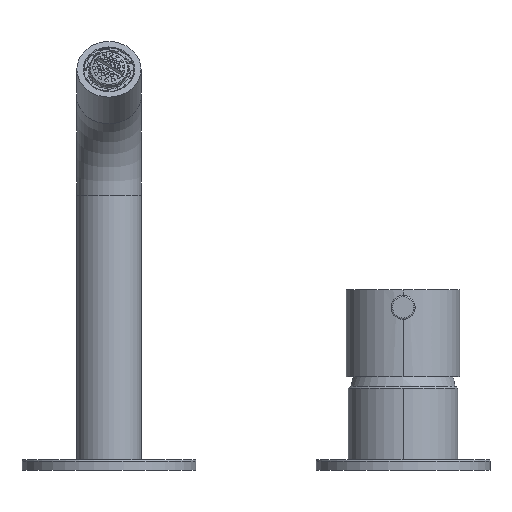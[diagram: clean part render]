
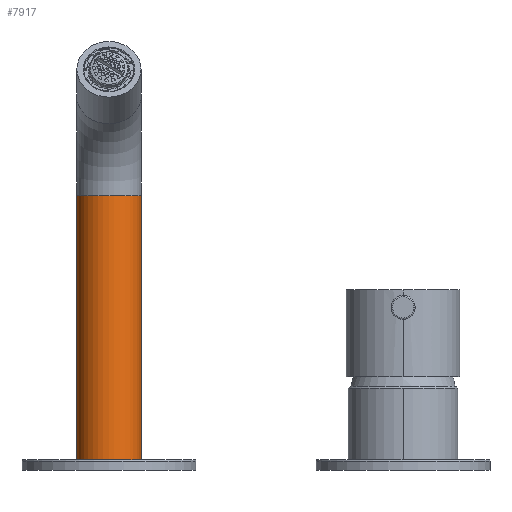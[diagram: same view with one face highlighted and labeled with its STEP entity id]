
A CAD part, front view. The second image highlights one B-rep face of the part: STEP entity #7917.
In plain terms, the highlighted cylindrical face has radius 12 mm (diameter 24 mm), a partial arc.
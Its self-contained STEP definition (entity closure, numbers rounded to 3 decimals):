
#3091=CARTESIAN_POINT('',(0.,0.,113.961));
#3092=DIRECTION('',(0.,0.,-1.));
#3093=DIRECTION('',(1.,0.,0.));
#3094=AXIS2_PLACEMENT_3D('',#3091,#3092,#3093);
#3116=DIRECTION('',(0.,0.,-1.));
#3117=VECTOR('',#3116,98.761);
#3118=CARTESIAN_POINT('',(12.,0.,113.961));
#3119=LINE('',#3118,#3117);
#3130=CARTESIAN_POINT('',(0.,0.,15.2));
#3131=DIRECTION('',(0.,0.,-1.));
#3132=DIRECTION('',(1.,0.,0.));
#3133=AXIS2_PLACEMENT_3D('',#3130,#3131,#3132);
#3135=DIRECTION('',(0.,0.,-1.));
#3136=VECTOR('',#3135,98.761);
#3137=CARTESIAN_POINT('',(-12.,0.,113.961));
#3138=LINE('',#3137,#3136);
#4877=CARTESIAN_POINT('',(12.,0.,113.961));
#4879=VERTEX_POINT('',#4877);
#4881=CARTESIAN_POINT('',(-12.,0.,113.961));
#4882=VERTEX_POINT('',#4881);
#5776=CARTESIAN_POINT('',(-12.,0.,15.2));
#5777=CARTESIAN_POINT('',(12.,0.,15.2));
#5778=VERTEX_POINT('',#5776);
#5779=VERTEX_POINT('',#5777);
#7906=CARTESIAN_POINT('',(0.,0.,11.2));
#7907=DIRECTION('',(0.,0.,-1.));
#7908=DIRECTION('',(-1.,0.,0.));
#7909=AXIS2_PLACEMENT_3D('',#7906,#7907,#7908);
#7910=CYLINDRICAL_SURFACE('',#7909,12.);
#7911=ORIENTED_EDGE('',*,*,#7894,.T.);
#7912=ORIENTED_EDGE('',*,*,#7870,.F.);
#7913=ORIENTED_EDGE('',*,*,#7826,.F.);
#7914=ORIENTED_EDGE('',*,*,#7867,.T.);
#7915=EDGE_LOOP('',(#7911,#7912,#7913,#7914));
#7916=FACE_OUTER_BOUND('',#7915,.F.);
#3095=CIRCLE('',#3094,12.);
#3134=CIRCLE('',#3133,12.);
#7826=EDGE_CURVE('',#4879,#4882,#3095,.T.);
#7867=EDGE_CURVE('',#4879,#5779,#3119,.T.);
#7870=EDGE_CURVE('',#4882,#5778,#3138,.T.);
#7894=EDGE_CURVE('',#5779,#5778,#3134,.T.);
#7917=ADVANCED_FACE('',(#7916),#7910,.T.);
